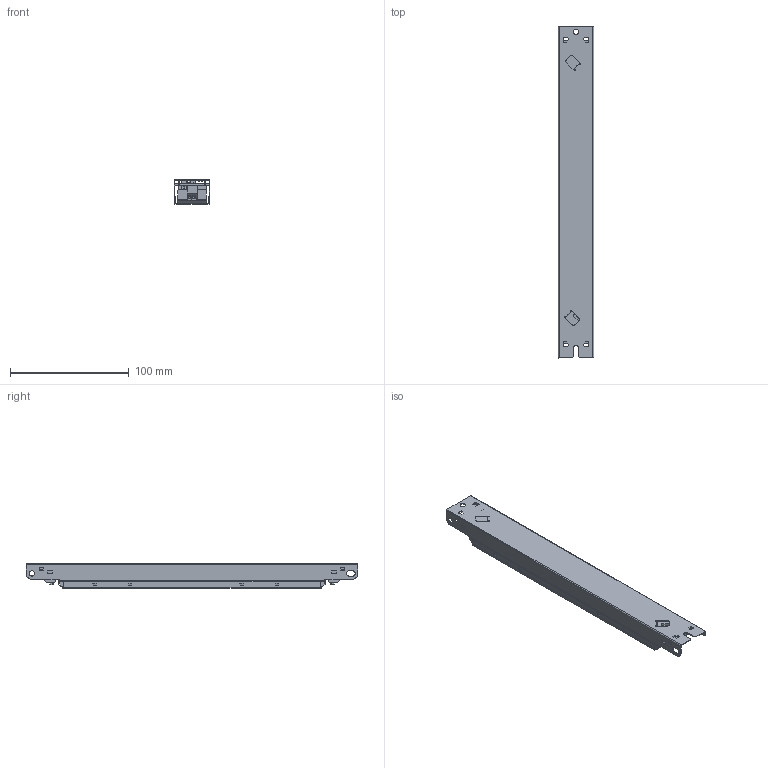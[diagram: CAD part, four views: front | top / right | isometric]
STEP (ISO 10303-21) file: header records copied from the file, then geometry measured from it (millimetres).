
FILE_DESCRIPTION(('Creo Elements/Direct Modeling STEP Export'),'2;1');
FILE_NAME('60W_80W_EasyLine DIP switch L-LV.stp','2024-12-05T12:36:39',(''),(''),'Creo Elements/Direct Modeling STEP processor for AP214 (Solid Model)','Creo Elements/Direct Modeling 20.6 25-Mar-2023 (C) Parametric Technology GmbH','');
FILE_SCHEMA(('AUTOMOTIVE_DESIGN { 1 0 10303 214 1 1 1 1 }'));
Length unit declared in the file: millimetre
Products named in the file (4): casing top; PCB; casing bottom; 60W__80W.stp
Assembly tree (3 placements, depth 2):
  60W__80W.stp
    casing bottom
    PCB
    casing top
Bounding box: 30 x 280 x 21 mm (x, y, z)
Volume: 28117.5 mm3; surface area: 73214.3 mm2
Topology: 3 solids, 3 shells, 853 faces, 2427 edges, 1593 vertices
Faces by surface type: plane 609, cylinder 180, extrusion 54, cone 10
Entity records: 29307 total; most frequent: CARTESIAN_POINT 6853, ORIENTED_EDGE 4854, DIRECTION 4269, EDGE_CURVE 2427, VECTOR 1965, LINE 1911, VERTEX_POINT 1593, AXIS2_PLACEMENT_3D 1152
